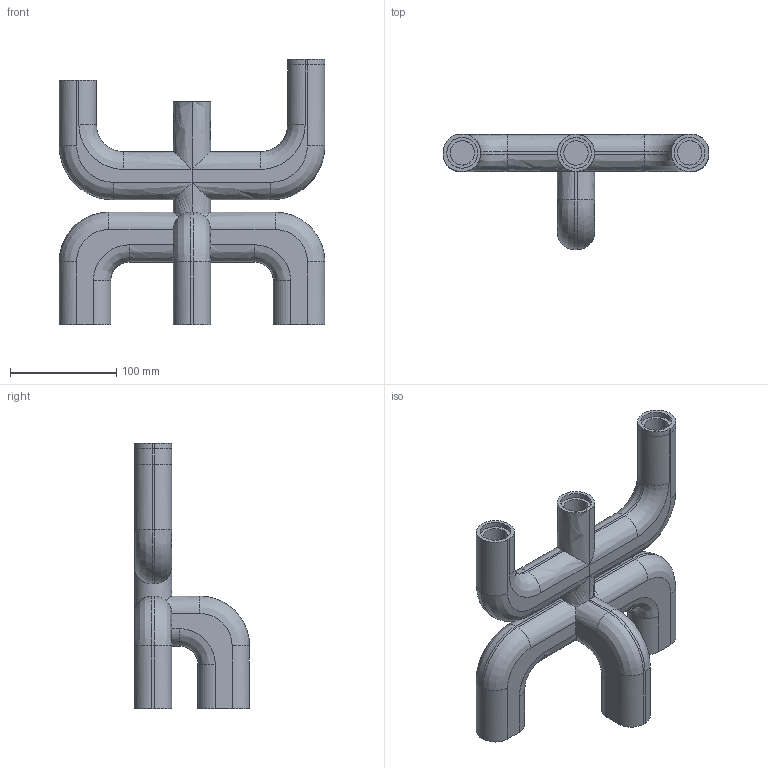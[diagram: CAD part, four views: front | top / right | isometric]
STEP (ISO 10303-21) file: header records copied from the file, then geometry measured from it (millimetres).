
FILE_DESCRIPTION(/* description */ (''),/* implementation_level */ '2;1');
FILE_NAME(/* name */ 'Cobra Candle Holder',/* time_stamp */ '2022-06-02T16:17:51+02:00',/* author */ (''),/* organization */ (''),/* preprocessor_version */ 'ST-DEVELOPER v15',/* originating_system */ '',/* authorisation */ '');
FILE_SCHEMA (('AUTOMOTIVE_DESIGN'));
Length unit declared in the file: millimetre
Products named in the file (1): Document
Bounding box: 250 x 108.28 x 250 mm (x, y, z)
Volume: 1182041.9 mm3; surface area: 128662.7 mm2
Topology: 1 solids, 1 shells, 136 faces, 318 edges, 190 vertices
Faces by surface type: bspline 90, plane 46
Entity records: 4336 total; most frequent: CARTESIAN_POINT 2474, ORIENTED_EDGE 636, EDGE_CURVE 318, VERTEX_POINT 190, EDGE_LOOP 142, ADVANCED_FACE 136, FACE_OUTER_BOUND 136, B_SPLINE_CURVE_WITH_KNOTS 126
